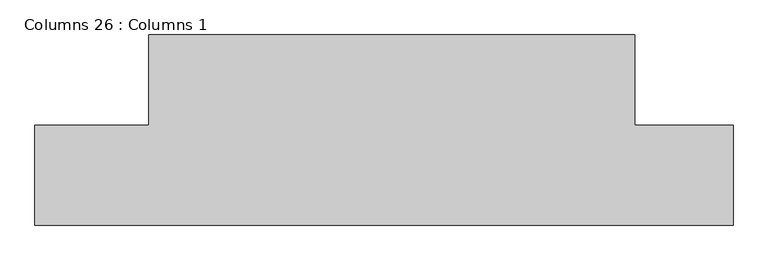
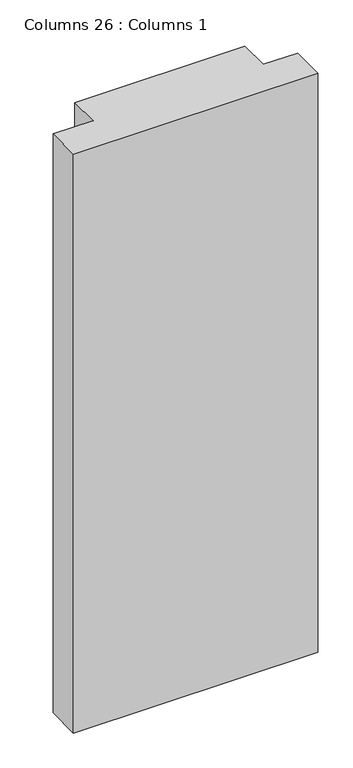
"""IFC4 building model written with IfcOpenShell, lengths in millimetres: column geometry, Columns 26 : Columns 1."""

from ifc_helpers import new_model, si_unit, origin, origin_with_axes, place, context, project, spatial, polyline, outline, extrude, source, transform, mapped, element, save


def columns_26_columns_1_af52d835(model_context):
    return source(origin(), model_context, "Body", "SweptSolid", [
        extrude(outline(polyline([(-32366.7439795, 117135.7591334), (-32366.7439795, 117345.3091334), (-32128.4782677, 117345.3091334), (-32128.4782677, 117534.3473091), (-31112.4782677, 117534.3473091), (-31112.4782677, 117345.3091334), (-30906.2439795, 117345.3091334), (-30906.2439795, 117135.7591334), (-32366.7439795, 117135.7591334)])), origin_with_axes(), (0.0, 0.0, 1.0), 3657.6),
    ])


if __name__ == "__main__":
    model = new_model("IFC4")
    model_context = context("Model", 3, world=origin())
    ifc_project = project(units=[si_unit("LENGTHUNIT", "METRE", prefix="MILLI")], contexts=[model_context])
    site = spatial("IfcSite", under=ifc_project)
    building = spatial("IfcBuilding", under=site)
    placement = place(None, origin())
    columns_26_columns_1_shape = columns_26_columns_1_af52d835(model_context)
    element("IfcColumn", 1, ObjectType="Columns 26 : Columns 1", at=placement, inside=building, context=model_context, shape_type="MappedRepresentation", body=[
        mapped(columns_26_columns_1_shape, transform((0.0, 0.0, 0.0), x_axis=(1.0, 0.0, 0.0), y_axis=(0.0, 1.0, 0.0), z_axis=(0.0, 0.0, 1.0))),
    ])
    save(model, "model.ifc")
